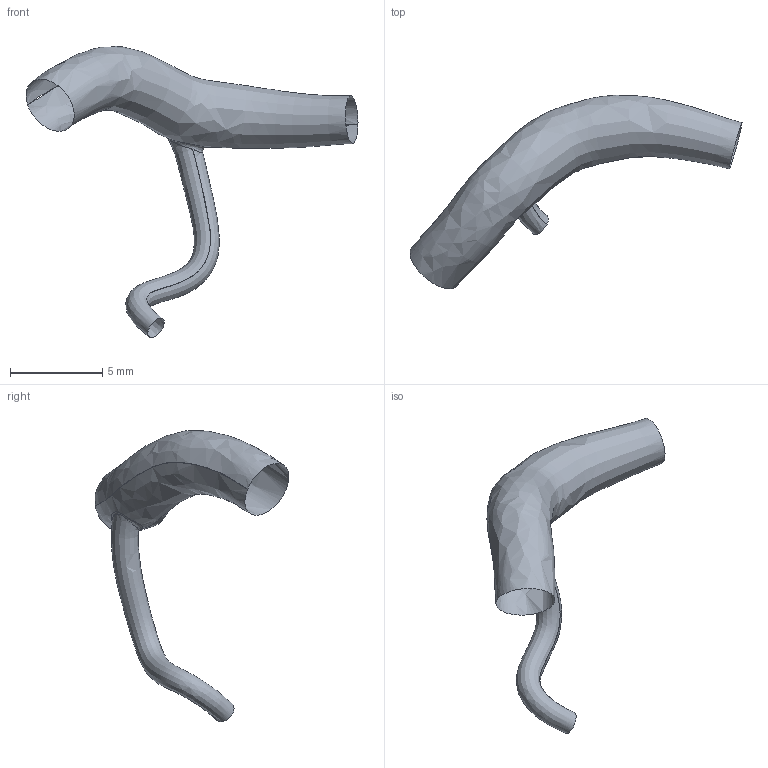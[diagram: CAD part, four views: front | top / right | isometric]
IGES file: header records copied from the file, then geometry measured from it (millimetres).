
Global section: file name: C:\Documents and Settings\Administrator\Desktop\FDA-Pig\Domestic RCA\Pig_000010\rv.ed.igs; native system: Rhinoceros ( May 19 2006 ); preprocessor: Trout Lake IGES 012 May 19 2006; date: 111205.185536; units: centimetre
Bounding box: 17.99 x 10.5 x 15.78 mm (x, y, z)
Surface area: 269 mm2 (no closed solid volume)
Topology: 0 solids, 0 shells, 3 faces, 38 edges, 35 vertices
Faces by surface type: bspline 3
